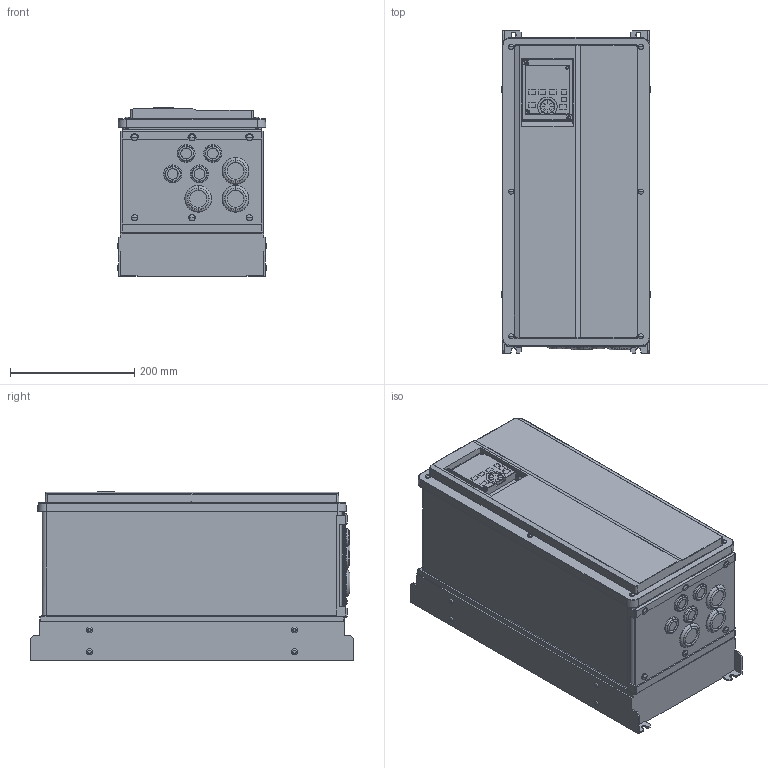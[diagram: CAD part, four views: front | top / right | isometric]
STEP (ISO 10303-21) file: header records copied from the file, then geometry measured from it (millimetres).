
FILE_DESCRIPTION((''),'2;1');
FILE_NAME('3D-INV-A8-09_01_ASM','2014-05-27T',('UJ56049'),(''),'PRO/ENGINEER BY PARAMETRIC TECHNOLOGY CORPORATION, 2011490','PRO/ENGINEER BY PARAMETRIC TECHNOLOGY CORPORATION, 2011490','');
FILE_SCHEMA(('CONFIG_CONTROL_DESIGN'));
Products named in the file (23): 3D-WAKU-A8-09_01-01; 3D-WAKU-A8-09_01_ASM; 3D-SW-M4X8_GREEN-A8; 3D-STE-FAN_BKT-A8-09_01; 3D-FAN-A8-09_02; 3D-SW-M4X32-A8; 3D-SWPWPNAM4X10_S902N034-A8; 3D-FAN_ASSY-A8-09_01_ASM; 3D-TA-A8; 3D-A8-TA_ASM; 3D-STE-CABLE_PLT-A8-09_01; 3D-GROM_C-30-SG-22A-A8-09_02; 3D-GROM_C-30-SG-34A-A8; 3D-STE-CABLE-PLT-A8-09_01_ASM; 3D-SW_TORX_M5-L20-A8; 3D-BOLT-_CABLE-PLT-A8-09_01_ASM; 3D-DOT-P1_P-A8-09_01; 3D-SC-M4X10-KAKU9-A8; 3D-TE-BOLT_ASSY-A8-09_01_ASM; 3D-COV-A8-09_01-01; 3D-COV-A8-09_01-01_ASM; 3D-DU-IP55-A8; 3D-INV-A8-09_01_ASM
Assembly tree (43 placements, depth 3):
  3D-INV-A8-09_01_ASM
    3D-WAKU-A8-09_01_ASM
      3D-WAKU-A8-09_01-01
    3D-SW-M4X8_GREEN-A8  x2
    3D-FAN_ASSY-A8-09_01_ASM
      3D-STE-FAN_BKT-A8-09_01
      3D-FAN-A8-09_02
      3D-SW-M4X32-A8  x2
      3D-SWPWPNAM4X10_S902N034-A8  x2
    3D-A8-TA_ASM
      3D-TA-A8
    3D-STE-CABLE-PLT-A8-09_01_ASM
      3D-STE-CABLE_PLT-A8-09_01
      3D-GROM_C-30-SG-22A-A8-09_02  x4
      3D-GROM_C-30-SG-34A-A8  x3
    3D-BOLT-_CABLE-PLT-A8-09_01_ASM
      3D-SW_TORX_M5-L20-A8  x6
    3D-DOT-P1_P-A8-09_01
    3D-TE-BOLT_ASSY-A8-09_01_ASM
      3D-SC-M4X10-KAKU9-A8  x9
    3D-COV-A8-09_01-01_ASM
      3D-COV-A8-09_01-01
    3D-DU-IP55-A8
Bounding box: 240.2 x 520 x 272 mm (x, y, z)
Volume: 21617151.8 mm3; surface area: 1364155 mm2
Topology: 36 solids, 43 shells, 4668 faces, 12182 edges, 7850 vertices
Faces by surface type: plane 3127, cylinder 1086, bspline 142, torus 126, sphere 101, cone 86
Entity records: 154438 total; most frequent: CARTESIAN_POINT 46630, ORIENTED_EDGE 22700, DIRECTION 21478, EDGE_CURVE 11350, VECTOR 8694, LINE 8694, VERTEX_POINT 7364, AXIS2_PLACEMENT_3D 6392
